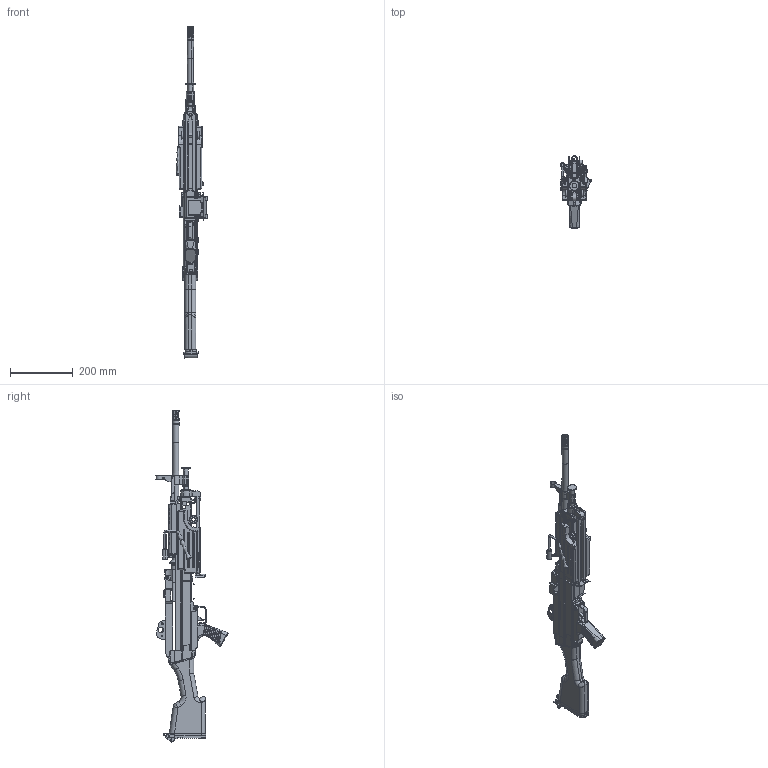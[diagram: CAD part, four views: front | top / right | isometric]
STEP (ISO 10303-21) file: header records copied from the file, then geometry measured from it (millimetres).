
FILE_DESCRIPTION(('CATIA V5 STEP Exchange'),'2;1');
FILE_NAME('D:\data sharing SSE\MINIMI FN HERSTAL PICTURE\FN HERSTAL MINIMI.stp','2012-08-13T10:22:28+00:00',('none'),('none'),'CATIA Version 5 Release 19 SP 2 (IN-10)','CATIA V5 STEP AP203','none');
FILE_SCHEMA(('CONFIG_CONTROL_DESIGN'));
Products named in the file (1): FN HERSTAL MINIMI
Assembly tree (35 placements, depth 2):
  FN HERSTAL MINIMI
    #58
    #7253
    #12839
    #22509
    #23213
    #29088
    #36321
    #37633
    #40893
    #42629
    #44594
    #45669
    #46218
    #47746
    #49270
    #50178
    #50201
    #51475
    #53629
    #56038
    #57804
    #58638
    #59868
    #60599
    #66601
    #69369
    #70377
    #74734
    #76402
    #77670
    #78031
    #78901
    #79147
    #79601
    #80852
Bounding box: 99.91 x 230.18 x 1060.98 mm (x, y, z)
Volume: 1765636.8 mm3; surface area: 655933.7 mm2
Topology: 38 solids, 39 shells, 2154 faces, 5602 edges, 3413 vertices
Faces by surface type: cylinder 875, plane 820, torus 213, bspline 132, sphere 80, extrusion 16, revolution 10, cone 8
Entity records: 81295 total; most frequent: CARTESIAN_POINT 32598, ORIENTED_EDGE 10984, DIRECTION 7899, EDGE_CURVE 5492, AXIS2_PLACEMENT_3D 3433, VERTEX_POINT 3411, VECTOR 2811, LINE 2795
